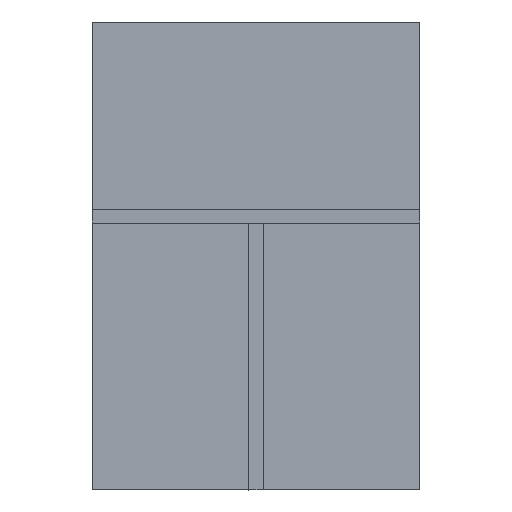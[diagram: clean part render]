
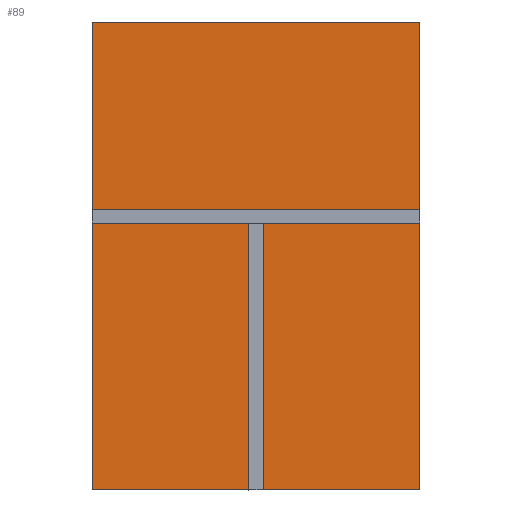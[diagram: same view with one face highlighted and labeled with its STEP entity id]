
A CAD part, left-side view. The second image highlights one B-rep face of the part: STEP entity #89.
In plain terms, the highlighted planar face has unit normal (-1, 0, 0).
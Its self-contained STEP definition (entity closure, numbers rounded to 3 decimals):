
#89=ADVANCED_FACE('',(#119),#452,.T.);
#119=FACE_OUTER_BOUND('',#149,.T.);
#149=EDGE_LOOP('',(#242,#243,#244,#245));
#242=ORIENTED_EDGE('',*,*,#321,.T.);
#243=ORIENTED_EDGE('',*,*,#314,.T.);
#244=ORIENTED_EDGE('',*,*,#315,.T.);
#245=ORIENTED_EDGE('',*,*,#319,.F.);
#314=EDGE_CURVE('',#422,#423,#374,.T.);
#315=EDGE_CURVE('',#423,#426,#375,.T.);
#319=EDGE_CURVE('',#425,#426,#379,.T.);
#321=EDGE_CURVE('',#425,#422,#381,.T.);
#374=B_SPLINE_CURVE_WITH_KNOTS('',1,(#689,#690),.UNSPECIFIED.,.F.,.F.,(2,
2),(350.,850.),.UNSPECIFIED.);
#375=B_SPLINE_CURVE_WITH_KNOTS('',1,(#691,#692),.UNSPECIFIED.,.F.,.F.,(2,
2),(850.,1183.056),.UNSPECIFIED.);
#379=B_SPLINE_CURVE_WITH_KNOTS('',1,(#699,#700),.UNSPECIFIED.,.F.,.F.,(2,
2),(0.,500.),.UNSPECIFIED.);
#381=B_SPLINE_CURVE_WITH_KNOTS('',1,(#703,#704),.UNSPECIFIED.,.F.,.F.,(2,
2),(16.944,350.),.UNSPECIFIED.);
#422=VERTEX_POINT('',#681);
#423=VERTEX_POINT('',#682);
#425=VERTEX_POINT('',#684);
#426=VERTEX_POINT('',#685);
#452=PLANE('',#502);
#502=AXIS2_PLACEMENT_3D('',#678,#528,$);
#528=DIRECTION('',(-1.,0.,0.));
#678=CARTESIAN_POINT('',(534.365,223.343,-525.438));
#681=CARTESIAN_POINT('',(534.365,-126.657,0.));
#682=CARTESIAN_POINT('',(534.365,223.343,0.));
#684=CARTESIAN_POINT('',(534.365,-126.657,-500.));
#685=CARTESIAN_POINT('',(534.365,223.343,-500.));
#689=CARTESIAN_POINT('',(534.365,-126.657,0.));
#690=CARTESIAN_POINT('',(534.365,223.343,0.));
#691=CARTESIAN_POINT('',(534.365,223.343,0.));
#692=CARTESIAN_POINT('',(534.365,223.343,-500.));
#699=CARTESIAN_POINT('',(534.365,-126.657,-500.));
#700=CARTESIAN_POINT('',(534.365,223.343,-500.));
#703=CARTESIAN_POINT('',(534.365,-126.657,-500.));
#704=CARTESIAN_POINT('',(534.365,-126.657,0.));
